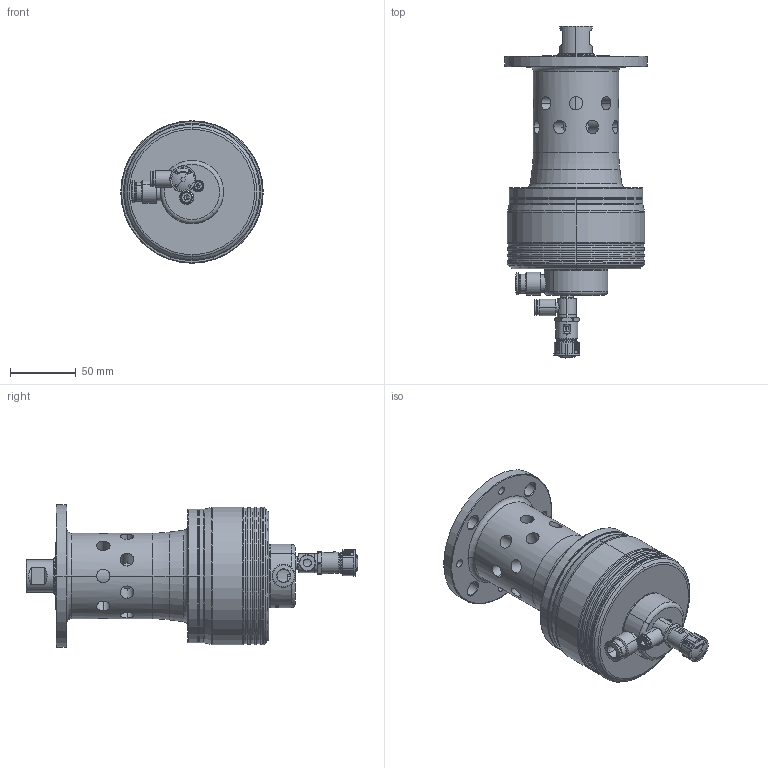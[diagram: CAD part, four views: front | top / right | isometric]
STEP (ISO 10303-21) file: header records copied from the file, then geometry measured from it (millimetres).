
FILE_DESCRIPTION (( 'STEP AP214' ), '1' );
FILE_NAME ('eco-Seal 0900 INOX.STEP', '2021-04-27T12:58:05', ( '' ), ( '' ), 'SwSTEP 2.0', 'SolidWorks 2020', '' );
FILE_SCHEMA (( 'AUTOMOTIVE_DESIGN' ));
Length unit declared in the file: millimetre
Products named in the file (1): eco-Seal 0900 INOX
Bounding box: 108 x 251.72 x 108 mm (x, y, z)
Surface area: 102693.8 mm2 (no closed solid volume)
Topology: 0 solids, 30 shells, 535 faces, 1716 edges, 1159 vertices
Faces by surface type: cylinder 166, plane 164, torus 102, cone 82, bspline 19, sphere 2
Entity records: 32839 total; most frequent: CARTESIAN_POINT 12220, DIRECTION 3079, ORIENTED_EDGE 2855, EDGE_CURVE 1704, AXIS2_PLACEMENT_3D 1214, VERTEX_POINT 1159, CIRCLE 697, VECTOR 651
